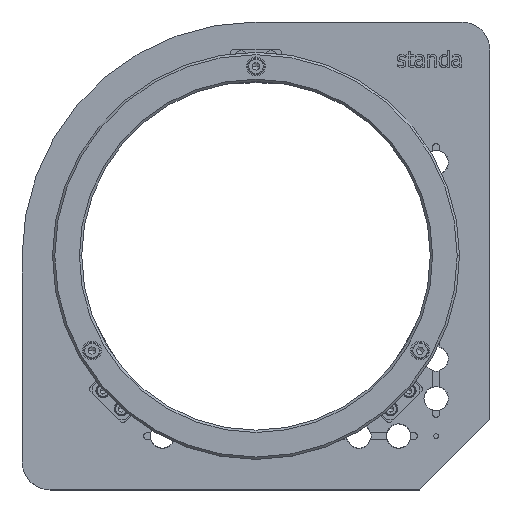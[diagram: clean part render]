
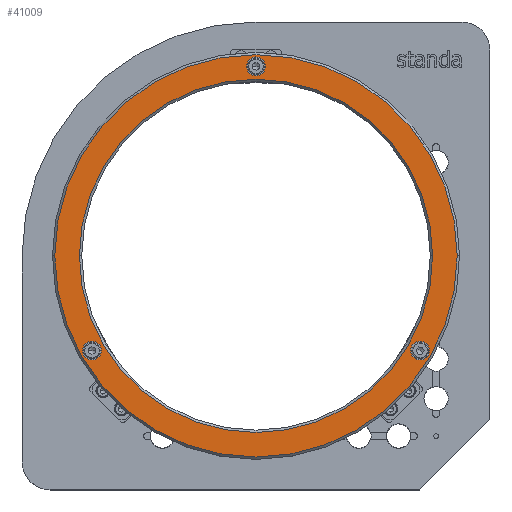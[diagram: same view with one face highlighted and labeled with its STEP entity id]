
A CAD part, top view. The second image highlights one B-rep face of the part: STEP entity #41009.
In plain terms, the highlighted planar face has unit normal (0, 0, 1).
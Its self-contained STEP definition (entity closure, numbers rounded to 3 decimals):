
#19570=CARTESIAN_POINT('',(74.148,-40.5,57.));
#19571=VERTEX_POINT('',#19570);
#19580=CARTESIAN_POINT('',(66.148,-40.5,57.));
#19581=VERTEX_POINT('',#19580);
#19582=CARTESIAN_POINT('',(70.148,-40.5,57.));
#19583=DIRECTION('',(0.0,0.0,-1.0));
#19584=DIRECTION('',(1.0,0.0,0.0));
#19585=AXIS2_PLACEMENT_3D('',#19582,#19583,#19584);
#19586=CIRCLE('',#19585,4.0);
#19587=EDGE_CURVE('',#19581,#19571,#19586,.T.);
#19696=CARTESIAN_POINT('',(4.,81.,57.));
#19697=VERTEX_POINT('',#19696);
#19706=CARTESIAN_POINT('',(-4.,81.,57.));
#19707=VERTEX_POINT('',#19706);
#19708=CARTESIAN_POINT('',(0.,81.,57.));
#19709=DIRECTION('',(0.0,0.0,-1.0));
#19710=DIRECTION('',(1.0,0.0,0.0));
#19711=AXIS2_PLACEMENT_3D('',#19708,#19709,#19710);
#19712=CIRCLE('',#19711,4.0);
#19713=EDGE_CURVE('',#19707,#19697,#19712,.T.);
#19822=CARTESIAN_POINT('',(-66.148,-40.5,57.));
#19823=VERTEX_POINT('',#19822);
#19832=CARTESIAN_POINT('',(-74.148,-40.5,57.));
#19833=VERTEX_POINT('',#19832);
#19834=CARTESIAN_POINT('',(-70.148,-40.5,57.));
#19835=DIRECTION('',(0.0,0.0,-1.0));
#19836=DIRECTION('',(1.0,0.0,0.0));
#19837=AXIS2_PLACEMENT_3D('',#19834,#19835,#19836);
#19838=CIRCLE('',#19837,4.0);
#19839=EDGE_CURVE('',#19833,#19823,#19838,.T.);
#19864=CARTESIAN_POINT('',(86.,0.,57.));
#19865=VERTEX_POINT('',#19864);
#19874=CARTESIAN_POINT('',(-86.,0.,57.));
#19875=VERTEX_POINT('',#19874);
#19876=CARTESIAN_POINT('',(0.,0.,57.));
#19877=DIRECTION('',(0.0,0.0,-1.0));
#19878=DIRECTION('',(1.0,0.0,0.0));
#19879=AXIS2_PLACEMENT_3D('',#19876,#19877,#19878);
#19880=CIRCLE('',#19879,86.);
#19881=EDGE_CURVE('',#19865,#19875,#19880,.T.);
#19948=CARTESIAN_POINT('',(75.5,0.,57.));
#19949=VERTEX_POINT('',#19948);
#19957=CARTESIAN_POINT('',(-75.5,0.,57.));
#19958=VERTEX_POINT('',#19957);
#19965=CARTESIAN_POINT('',(0.,0.,57.));
#19966=DIRECTION('',(0.0,0.0,1.0));
#19967=DIRECTION('',(1.0,0.0,0.0));
#19968=AXIS2_PLACEMENT_3D('',#19965,#19966,#19967);
#19969=CIRCLE('',#19968,75.5);
#19970=EDGE_CURVE('',#19958,#19949,#19969,.T.);
#40942=CARTESIAN_POINT('',(0.,0.,57.));
#40943=DIRECTION('',(0.0,0.0,1.0));
#40944=DIRECTION('',(1.0,0.0,0.0));
#40945=AXIS2_PLACEMENT_3D('',#40942,#40943,#40944);
#40946=CIRCLE('',#40945,75.5);
#40947=EDGE_CURVE('',#19949,#19958,#40946,.T.);
#40960=CARTESIAN_POINT('',(-74.5,0.,57.));
#40961=DIRECTION('',(0.0,0.0,1.0));
#40962=DIRECTION('',(0.0,-1.0,0.0));
#40963=AXIS2_PLACEMENT_3D('',#40960,#40961,#40962);
#40964=PLANE('',#40963);
#40965=CARTESIAN_POINT('',(0.,0.,57.));
#40966=DIRECTION('',(0.0,0.0,-1.0));
#40967=DIRECTION('',(1.0,0.0,0.0));
#40968=AXIS2_PLACEMENT_3D('',#40965,#40966,#40967);
#40969=CIRCLE('',#40968,86.);
#40970=EDGE_CURVE('',#19875,#19865,#40969,.T.);
#40971=ORIENTED_EDGE('',*,*,#40970,.F.);
#40972=ORIENTED_EDGE('',*,*,#19881,.F.);
#40973=EDGE_LOOP('',(#40971,#40972));
#40974=FACE_OUTER_BOUND('',#40973,.T.);
#40975=CARTESIAN_POINT('',(-70.148,-40.5,57.));
#40976=DIRECTION('',(0.0,0.0,-1.0));
#40977=DIRECTION('',(1.0,0.0,0.0));
#40978=AXIS2_PLACEMENT_3D('',#40975,#40976,#40977);
#40979=CIRCLE('',#40978,4.0);
#40980=EDGE_CURVE('',#19823,#19833,#40979,.T.);
#40981=ORIENTED_EDGE('',*,*,#40980,.T.);
#40982=ORIENTED_EDGE('',*,*,#19839,.T.);
#40983=EDGE_LOOP('',(#40981,#40982));
#40984=FACE_BOUND('',#40983,.T.);
#40985=CARTESIAN_POINT('',(0.,81.,57.));
#40986=DIRECTION('',(0.0,0.0,-1.0));
#40987=DIRECTION('',(1.0,0.0,0.0));
#40988=AXIS2_PLACEMENT_3D('',#40985,#40986,#40987);
#40989=CIRCLE('',#40988,4.0);
#40990=EDGE_CURVE('',#19697,#19707,#40989,.T.);
#40991=ORIENTED_EDGE('',*,*,#40990,.T.);
#40992=ORIENTED_EDGE('',*,*,#19713,.T.);
#40993=EDGE_LOOP('',(#40991,#40992));
#40994=FACE_BOUND('',#40993,.T.);
#40995=CARTESIAN_POINT('',(70.148,-40.5,57.));
#40996=DIRECTION('',(0.0,0.0,-1.0));
#40997=DIRECTION('',(1.0,0.0,0.0));
#40998=AXIS2_PLACEMENT_3D('',#40995,#40996,#40997);
#40999=CIRCLE('',#40998,4.0);
#41000=EDGE_CURVE('',#19571,#19581,#40999,.T.);
#41001=ORIENTED_EDGE('',*,*,#41000,.T.);
#41002=ORIENTED_EDGE('',*,*,#19587,.T.);
#41003=EDGE_LOOP('',(#41001,#41002));
#41004=FACE_BOUND('',#41003,.T.);
#41005=ORIENTED_EDGE('',*,*,#19970,.F.);
#41006=ORIENTED_EDGE('',*,*,#40947,.F.);
#41007=EDGE_LOOP('',(#41005,#41006));
#41008=FACE_BOUND('',#41007,.T.);
#41009=ADVANCED_FACE('',(#40974,#40984,#40994,#41004,#41008),#40964,.T.);
